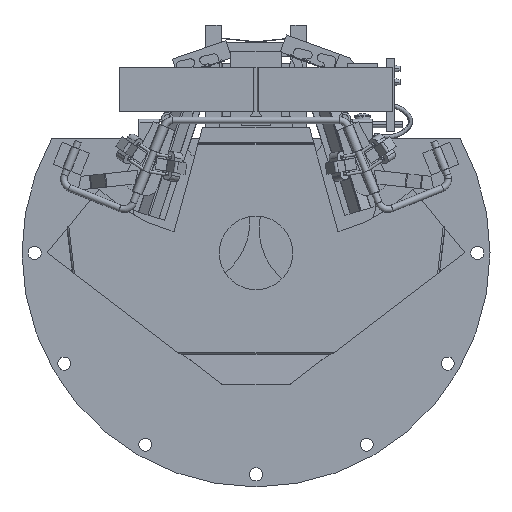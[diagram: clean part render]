
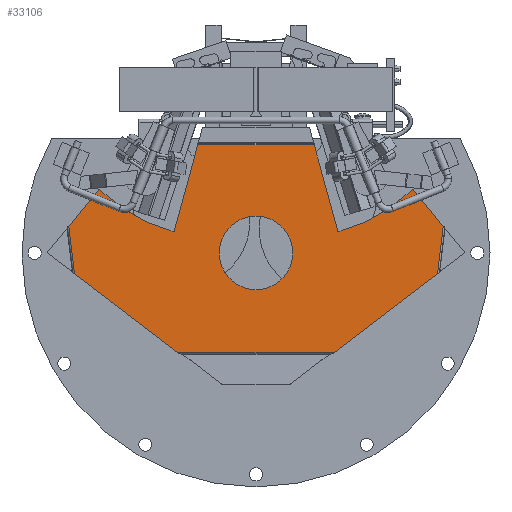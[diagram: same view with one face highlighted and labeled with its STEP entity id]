
A CAD part, top view. The second image highlights one B-rep face of the part: STEP entity #33106.
In plain terms, the highlighted planar face has unit normal (0, 0, 1).
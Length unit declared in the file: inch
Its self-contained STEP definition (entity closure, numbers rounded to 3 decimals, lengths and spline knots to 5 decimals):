
#830 = DIRECTION ( 'NONE',  ( -1., 0., 0. ) ) ;
#831 = DIRECTION ( 'NONE',  ( 0., 0., -1. ) ) ;
#832 = CARTESIAN_POINT ( 'NONE',  ( 0., 0., 0.045 ) ) ;
#842 = AXIS2_PLACEMENT_3D ( 'NONE', #832, #831, #830 ) ;
#843 = CIRCLE ( 'NONE', #842, 0.275 ) ;
#910 = CARTESIAN_POINT ( 'NONE',  ( -0.58456, -0.745, 0.045 ) ) ;
#1035 = CARTESIAN_POINT ( 'NONE',  ( 0.275, 0., 0.045 ) ) ;
#1037 = CARTESIAN_POINT ( 'NONE',  ( -0.275, 0., 0.045 ) ) ;
#1063 = CARTESIAN_POINT ( 'NONE',  ( 0.43526, 0.808, 0.045 ) ) ;
#1064 = DIRECTION ( 'NONE',  ( 0.629, -0.777, 0. ) ) ;
#1065 = VECTOR ( 'NONE', #1064, 39.37008 ) ;
#1066 = CARTESIAN_POINT ( 'NONE',  ( 0., 0., 0.045 ) ) ;
#1072 = CARTESIAN_POINT ( 'NONE',  ( 1.17534, 0.47748, 0.045 ) ) ;
#1073 = LINE ( 'NONE', #1072, #1065 ) ;
#1076 = CARTESIAN_POINT ( 'NONE',  ( 0.613, 0.15774, 0.045 ) ) ;
#1077 = CARTESIAN_POINT ( 'NONE',  ( 1.40028, 0.1997, 0.045 ) ) ;
#1082 = CARTESIAN_POINT ( 'NONE',  ( 1.17534, 0.47748, 0.045 ) ) ;
#1099 = DIRECTION ( 'NONE',  ( 0., 0., -1. ) ) ;
#1103 = CARTESIAN_POINT ( 'NONE',  ( 1.35763, -0.15577, 0.045 ) ) ;
#1128 = DIRECTION ( 'NONE',  ( -1., 0., 0. ) ) ;
#1131 = CARTESIAN_POINT ( 'NONE',  ( -1.35763, -0.15577, 0.045 ) ) ;
#1132 = AXIS2_PLACEMENT_3D ( 'NONE', #1066, #1099, #1128 ) ;
#1137 = CIRCLE ( 'NONE', #1132, 0.275 ) ;
#1143 = DIRECTION ( 'NONE',  ( -0.795, 0.606, 0. ) ) ;
#1144 = VECTOR ( 'NONE', #1143, 39.37008 ) ;
#1145 = CARTESIAN_POINT ( 'NONE',  ( -1.562, 0., 0.045 ) ) ;
#1146 = LINE ( 'NONE', #1145, #1144 ) ;
#1181 = CARTESIAN_POINT ( 'NONE',  ( 0.58456, -0.745, 0.045 ) ) ;
#1196 = DIRECTION ( 'NONE',  ( -0.795, -0.606, 0. ) ) ;
#1197 = VECTOR ( 'NONE', #1196, 39.37008 ) ;
#1203 = AXIS2_PLACEMENT_3D ( 'NONE', #1237, #1236, #1235 ) ;
#1207 = LINE ( 'NONE', #1216, #1197 ) ;
#1216 = CARTESIAN_POINT ( 'NONE',  ( 1.562, 0., 0.045 ) ) ;
#1219 = DIRECTION ( 'NONE',  ( 0.629, 0.777, 0. ) ) ;
#1220 = VECTOR ( 'NONE', #1219, 39.37008 ) ;
#1224 = DIRECTION ( 'NONE',  ( 0.119, -0.993, 0. ) ) ;
#1225 = VECTOR ( 'NONE', #1224, 39.37008 ) ;
#1226 = CARTESIAN_POINT ( 'NONE',  ( -1.52591, 1.24661, 0.045 ) ) ;
#1230 = LINE ( 'NONE', #1226, #1225 ) ;
#1231 = CARTESIAN_POINT ( 'NONE',  ( -1.17534, 0.47748, 0.045 ) ) ;
#1232 = LINE ( 'NONE', #1231, #1220 ) ;
#1235 = DIRECTION ( 'NONE',  ( -1., 0., 0. ) ) ;
#1236 = DIRECTION ( 'NONE',  ( 0., 0., 1. ) ) ;
#1237 = CARTESIAN_POINT ( 'NONE',  ( -0.281, 1.396, 0.045 ) ) ;
#1239 = CARTESIAN_POINT ( 'NONE',  ( -1.17534, 0.47748, 0.045 ) ) ;
#1241 = CARTESIAN_POINT ( 'NONE',  ( -1.40028, 0.1997, 0.045 ) ) ;
#1250 = CIRCLE ( 'NONE', #1203, 1.282 ) ;
#1251 = CARTESIAN_POINT ( 'NONE',  ( -0.43526, 0.808, 0.045 ) ) ;
#1252 = PLANE ( 'NONE',  #1304 ) ;
#1274 = FACE_BOUND ( 'NONE', #33057, .T. ) ;
#1283 = DIRECTION ( 'NONE',  ( 1., 0., 0. ) ) ;
#1284 = VECTOR ( 'NONE', #1283, 39.37008 ) ;
#1285 = CARTESIAN_POINT ( 'NONE',  ( -0.281, 0.808, 0.045 ) ) ;
#1286 = LINE ( 'NONE', #1285, #1284 ) ;
#1287 = CARTESIAN_POINT ( 'NONE',  ( -0.281, -0.745, 0.045 ) ) ;
#1288 = LINE ( 'NONE', #1287, #1329 ) ;
#1291 = DIRECTION ( 'NONE',  ( 0.264, -0.965, 0. ) ) ;
#1292 = VECTOR ( 'NONE', #1291, 39.37008 ) ;
#1293 = CARTESIAN_POINT ( 'NONE',  ( 0.4, 0.937, 0.045 ) ) ;
#1297 = LINE ( 'NONE', #1293, #1292 ) ;
#1298 = DIRECTION ( 'NONE',  ( 1., 0., 0. ) ) ;
#1299 = DIRECTION ( 'NONE',  ( 0., 0., 1. ) ) ;
#1300 = AXIS2_PLACEMENT_3D ( 'NONE', #1305, #1299, #1298 ) ;
#1301 = CIRCLE ( 'NONE', #1300, 1.282 ) ;
#1303 = FACE_OUTER_BOUND ( 'NONE', #33043, .T. ) ;
#1304 = AXIS2_PLACEMENT_3D ( 'NONE', #1333, #1332, #1331 ) ;
#1305 = CARTESIAN_POINT ( 'NONE',  ( 0.281, 1.396, 0.045 ) ) ;
#1320 = DIRECTION ( 'NONE',  ( -0.119, -0.993, 0. ) ) ;
#1321 = VECTOR ( 'NONE', #1320, 39.37008 ) ;
#1322 = CARTESIAN_POINT ( 'NONE',  ( 1.51793, 1.18013, 0.045 ) ) ;
#1323 = LINE ( 'NONE', #1322, #1321 ) ;
#1328 = DIRECTION ( 'NONE',  ( 1., 0., 0. ) ) ;
#1329 = VECTOR ( 'NONE', #1328, 39.37008 ) ;
#1331 = DIRECTION ( 'NONE',  ( -1., 0., 0. ) ) ;
#1332 = DIRECTION ( 'NONE',  ( 0., 0., -1. ) ) ;
#1333 = CARTESIAN_POINT ( 'NONE',  ( -0.281, 1.396, 0.045 ) ) ;
#29237 = CARTESIAN_POINT ( 'NONE',  ( -0.613, 0.15774, 0.045 ) ) ;
#32956 = EDGE_CURVE ( 'NONE', #33023, #33027, #843, .T. ) ;
#32991 = VERTEX_POINT ( 'NONE', #910 ) ;
#33023 = VERTEX_POINT ( 'NONE', #1035 ) ;
#33027 = VERTEX_POINT ( 'NONE', #1037 ) ;
#33031 = VERTEX_POINT ( 'NONE', #1082 ) ;
#33032 = VERTEX_POINT ( 'NONE', #1077 ) ;
#33033 = VERTEX_POINT ( 'NONE', #1076 ) ;
#33034 = EDGE_CURVE ( 'NONE', #33031, #33032, #1073, .T. ) ;
#33038 = VERTEX_POINT ( 'NONE', #1063 ) ;
#33039 = VERTEX_POINT ( 'NONE', #1103 ) ;
#33043 = EDGE_LOOP ( 'NONE', ( #33111, #33109, #33107, #33115, #33114, #33102, #33113, #33105, #33313, #33099, #33084, #33089 ) ) ;
#33046 = EDGE_CURVE ( 'NONE', #33027, #33023, #1137, .T. ) ;
#33048 = VERTEX_POINT ( 'NONE', #1131 ) ;
#33052 = EDGE_CURVE ( 'NONE', #32991, #33048, #1146, .T. ) ;
#33056 = VERTEX_POINT ( 'NONE', #1181 ) ;
#33057 = EDGE_LOOP ( 'NONE', ( #33108, #33059 ) ) ;
#33059 = ORIENTED_EDGE ( 'NONE', *, *, #33046, .T. ) ;
#33069 = EDGE_CURVE ( 'NONE', #33039, #33056, #1207, .T. ) ;
#33080 = EDGE_CURVE ( 'NONE', #33082, #44588, #1250, .T. ) ;
#33081 = VERTEX_POINT ( 'NONE', #1241 ) ;
#33082 = VERTEX_POINT ( 'NONE', #1239 ) ;
#33084 = ORIENTED_EDGE ( 'NONE', *, *, #33086, .F. ) ;
#33085 = EDGE_CURVE ( 'NONE', #33081, #33048, #1230, .T. ) ;
#33086 = EDGE_CURVE ( 'NONE', #33081, #33082, #1232, .T. ) ;
#33089 = ORIENTED_EDGE ( 'NONE', *, *, #33085, .T. ) ;
#33099 = ORIENTED_EDGE ( 'NONE', *, *, #33080, .F. ) ;
#33100 = EDGE_CURVE ( 'NONE', #33033, #33031, #1301, .T. ) ;
#33101 = VERTEX_POINT ( 'NONE', #1251 ) ;
#33102 = ORIENTED_EDGE ( 'NONE', *, *, #33100, .F. ) ;
#33103 = EDGE_CURVE ( 'NONE', #33038, #33033, #1297, .T. ) ;
#33104 = EDGE_CURVE ( 'NONE', #33101, #33038, #1286, .T. ) ;
#33105 = ORIENTED_EDGE ( 'NONE', *, *, #33104, .F. ) ;
#33106 = ADVANCED_FACE ( 'NONE', ( #1274, #1303 ), #1252, .F. ) ;
#33107 = ORIENTED_EDGE ( 'NONE', *, *, #33069, .F. ) ;
#33108 = ORIENTED_EDGE ( 'NONE', *, *, #32956, .T. ) ;
#33109 = ORIENTED_EDGE ( 'NONE', *, *, #33110, .T. ) ;
#33110 = EDGE_CURVE ( 'NONE', #32991, #33056, #1288, .T. ) ;
#33111 = ORIENTED_EDGE ( 'NONE', *, *, #33052, .F. ) ;
#33112 = EDGE_CURVE ( 'NONE', #33032, #33039, #1323, .T. ) ;
#33113 = ORIENTED_EDGE ( 'NONE', *, *, #33103, .F. ) ;
#33114 = ORIENTED_EDGE ( 'NONE', *, *, #33034, .F. ) ;
#33115 = ORIENTED_EDGE ( 'NONE', *, *, #33112, .F. ) ;
#33313 = ORIENTED_EDGE ( 'NONE', *, *, #49727, .F. ) ;
#44588 = VERTEX_POINT ( 'NONE', #29237 ) ;
#49727 = EDGE_CURVE ( 'NONE', #44588, #33101, #55200, .T. ) ;
#55199 = CARTESIAN_POINT ( 'NONE',  ( -0.4, 0.937, 0.045 ) ) ;
#55200 = LINE ( 'NONE', #55199, #55250 ) ;
#55249 = DIRECTION ( 'NONE',  ( 0.264, 0.965, 0. ) ) ;
#55250 = VECTOR ( 'NONE', #55249, 39.37008 ) ;
